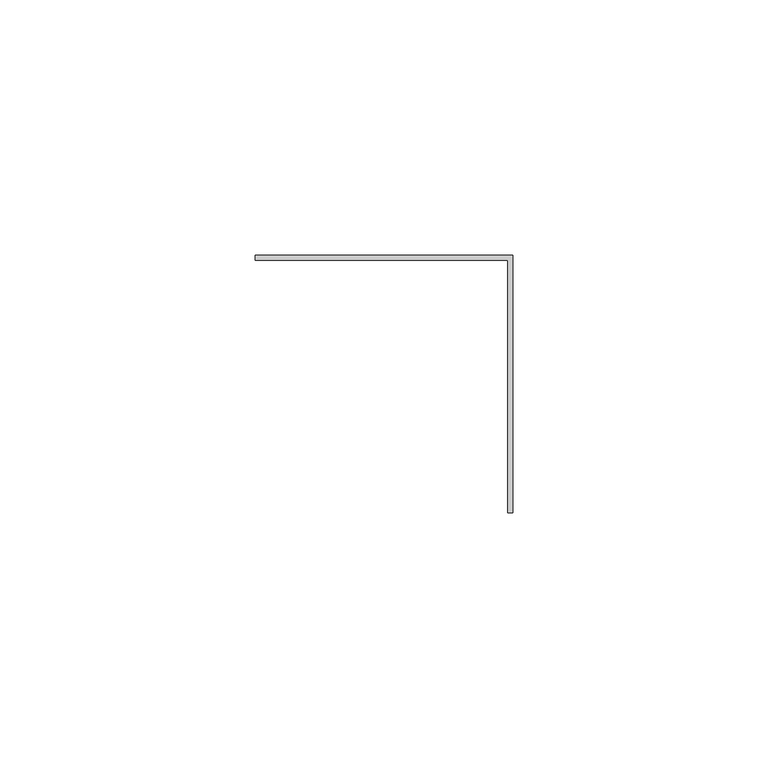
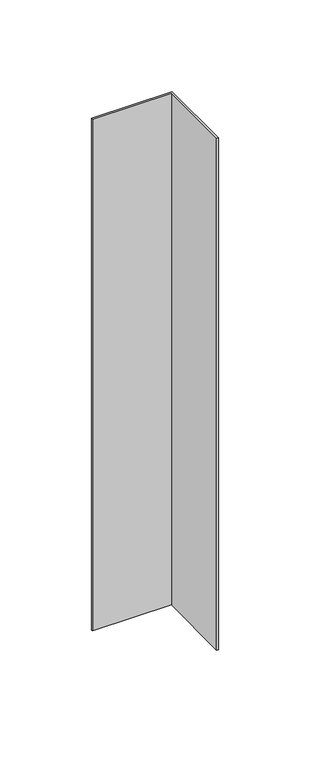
"""IFC4 building model written with IfcOpenShell, lengths in millimetres: member geometry, Meneau d'angle en L : ATELIERS 3S_Angle sortant."""

from ifc_helpers import new_model, si_unit, frame, origin, place, context, project, spatial, polyline, outline, extrude, source, transform, mapped, element, save


def member_682194e8(model_context):
    return source(origin(), model_context, "Body", "SweptSolid", [
        extrude(outline(polyline([(37.5, -12.0), (37.5, 37.5), (-12.0, 37.5), (-12.0, 38.5), (38.5, 38.5), (38.5, -12.0), (37.5, -12.0)])), frame((0.0, 0.0, -340.0), z_axis=(0.0, 0.0, 1.0), x_axis=(1.0, 0.0, 0.0)), (0.0, 0.0, 1.0), 340.0),
    ])


if __name__ == "__main__":
    model = new_model("IFC4")
    model_context = context("Model", 3, world=origin())
    ifc_project = project(units=[si_unit("LENGTHUNIT", "METRE", prefix="MILLI")], contexts=[model_context])
    site = spatial("IfcSite", under=ifc_project)
    building = spatial("IfcBuilding", under=site)
    placement = place(None, origin())
    member_shape = member_682194e8(model_context)
    element("IfcMember", 1, ObjectType="Meneau d'angle en L : ATELIERS 3S_Angle sortant", at=placement, inside=building, context=model_context, shape_type="MappedRepresentation", body=[
        mapped(member_shape, transform((0.0, 0.0, 0.0), x_axis=(1.0, 0.0, 0.0), y_axis=(0.0, 1.0, 0.0), z_axis=(0.0, 0.0, 1.0))),
    ])
    save(model, "model.ifc")
